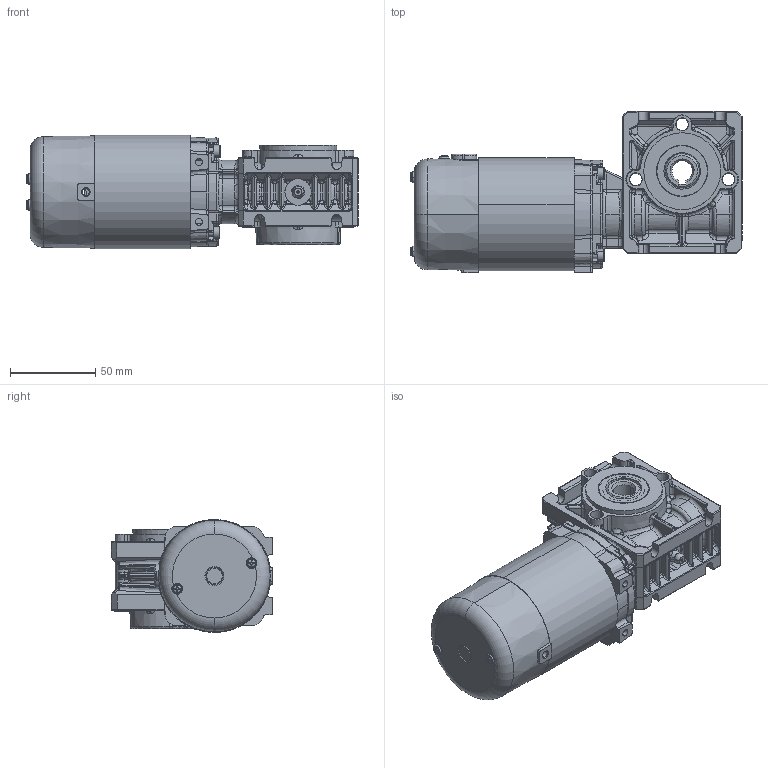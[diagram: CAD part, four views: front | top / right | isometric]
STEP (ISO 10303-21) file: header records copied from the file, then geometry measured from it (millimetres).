
FILE_DESCRIPTION (( 'STEP AP214' ), '1' );
FILE_NAME ('PM10-GB28.STEP', '2021-07-19T15:40:15', ( '' ), ( '' ), 'SwSTEP 2.0', 'SolidWorks 2020', '' );
FILE_SCHEMA (( 'AUTOMOTIVE_DESIGN' ));
Length unit declared in the file: millimetre
Products named in the file (1): PM10-GB28
Bounding box: 194.18 x 94.2 x 66.19 mm (x, y, z)
Surface area: 117361.4 mm2 (no closed solid volume)
Topology: 0 solids, 25 shells, 2869 faces, 7186 edges, 4325 vertices
Faces by surface type: plane 1148, cylinder 637, bspline 632, cone 212, torus 130, sphere 110
Entity records: 136165 total; most frequent: CARTESIAN_POINT 42502, ORIENTED_EDGE 13951, DIRECTION 11739, EDGE_CURVE 7064, AXIS2_PLACEMENT_3D 4357, VERTEX_POINT 4309, VECTOR 3025, LINE 3025
